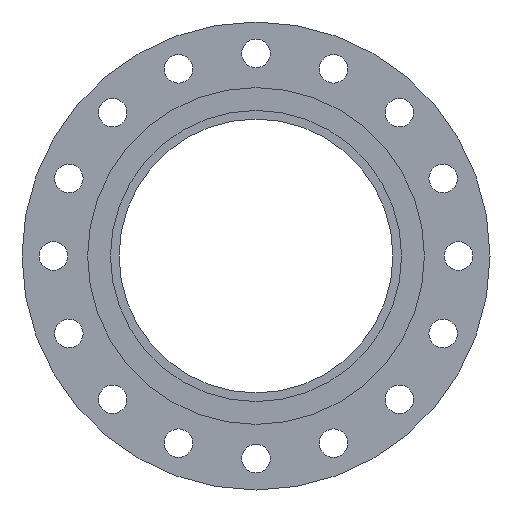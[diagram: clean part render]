
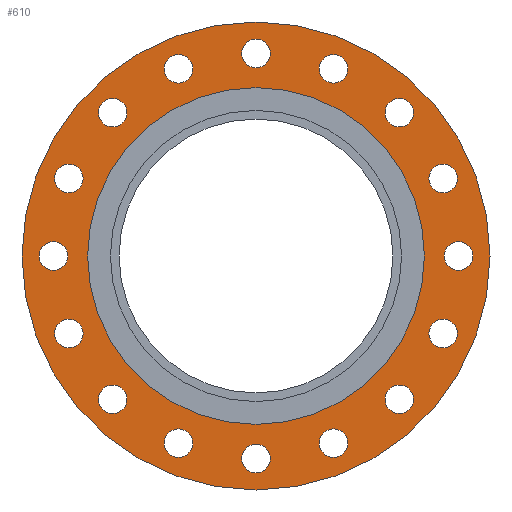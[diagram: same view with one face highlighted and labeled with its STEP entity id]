
A CAD part, left-side view. The second image highlights one B-rep face of the part: STEP entity #610.
In plain terms, the highlighted planar face has unit normal (-1, 0, 0).
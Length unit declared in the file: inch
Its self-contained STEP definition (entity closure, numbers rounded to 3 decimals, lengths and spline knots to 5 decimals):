
#14=FACE_BOUND('',#104,.T.);
#15=FACE_BOUND('',#105,.T.);
#16=FACE_BOUND('',#106,.T.);
#17=FACE_BOUND('',#107,.T.);
#18=FACE_BOUND('',#108,.T.);
#19=FACE_BOUND('',#109,.T.);
#20=FACE_BOUND('',#110,.T.);
#21=FACE_BOUND('',#111,.T.);
#22=FACE_BOUND('',#112,.T.);
#23=FACE_BOUND('',#113,.T.);
#24=FACE_BOUND('',#114,.T.);
#25=FACE_BOUND('',#115,.T.);
#26=FACE_BOUND('',#116,.T.);
#27=FACE_BOUND('',#117,.T.);
#28=FACE_BOUND('',#118,.T.);
#29=FACE_BOUND('',#119,.T.);
#30=FACE_BOUND('',#120,.T.);
#52=PLANE('',#694);
#75=FACE_OUTER_BOUND('',#103,.T.);
#103=EDGE_LOOP('',(#456,#457));
#104=EDGE_LOOP('',(#458));
#105=EDGE_LOOP('',(#459));
#106=EDGE_LOOP('',(#460));
#107=EDGE_LOOP('',(#461));
#108=EDGE_LOOP('',(#462));
#109=EDGE_LOOP('',(#463));
#110=EDGE_LOOP('',(#464));
#111=EDGE_LOOP('',(#465));
#112=EDGE_LOOP('',(#466));
#113=EDGE_LOOP('',(#467));
#114=EDGE_LOOP('',(#468));
#115=EDGE_LOOP('',(#469));
#116=EDGE_LOOP('',(#470));
#117=EDGE_LOOP('',(#471));
#118=EDGE_LOOP('',(#472));
#119=EDGE_LOOP('',(#473));
#120=EDGE_LOOP('',(#474,#475));
#197=CIRCLE('',#643,0.625);
#199=CIRCLE('',#646,0.625);
#201=CIRCLE('',#649,0.625);
#203=CIRCLE('',#652,0.625);
#205=CIRCLE('',#655,0.625);
#207=CIRCLE('',#658,0.625);
#209=CIRCLE('',#661,0.625);
#211=CIRCLE('',#664,0.625);
#213=CIRCLE('',#667,0.625);
#215=CIRCLE('',#670,0.625);
#217=CIRCLE('',#673,0.625);
#219=CIRCLE('',#676,0.625);
#221=CIRCLE('',#679,0.625);
#223=CIRCLE('',#682,0.625);
#225=CIRCLE('',#685,0.625);
#227=CIRCLE('',#688,0.625);
#228=CIRCLE('',#690,10.25);
#229=CIRCLE('',#691,10.25);
#232=CIRCLE('',#695,7.375);
#233=CIRCLE('',#696,7.375);
#253=VERTEX_POINT('',#921);
#255=VERTEX_POINT('',#927);
#257=VERTEX_POINT('',#933);
#259=VERTEX_POINT('',#939);
#261=VERTEX_POINT('',#945);
#263=VERTEX_POINT('',#951);
#265=VERTEX_POINT('',#957);
#267=VERTEX_POINT('',#963);
#269=VERTEX_POINT('',#969);
#271=VERTEX_POINT('',#975);
#273=VERTEX_POINT('',#981);
#275=VERTEX_POINT('',#987);
#277=VERTEX_POINT('',#993);
#279=VERTEX_POINT('',#999);
#281=VERTEX_POINT('',#1005);
#283=VERTEX_POINT('',#1011);
#284=VERTEX_POINT('',#1015);
#285=VERTEX_POINT('',#1016);
#288=VERTEX_POINT('',#1025);
#289=VERTEX_POINT('',#1026);
#310=EDGE_CURVE('',#253,#253,#197,.T.);
#313=EDGE_CURVE('',#255,#255,#199,.T.);
#316=EDGE_CURVE('',#257,#257,#201,.T.);
#319=EDGE_CURVE('',#259,#259,#203,.T.);
#322=EDGE_CURVE('',#261,#261,#205,.T.);
#325=EDGE_CURVE('',#263,#263,#207,.T.);
#328=EDGE_CURVE('',#265,#265,#209,.T.);
#331=EDGE_CURVE('',#267,#267,#211,.T.);
#334=EDGE_CURVE('',#269,#269,#213,.T.);
#337=EDGE_CURVE('',#271,#271,#215,.T.);
#340=EDGE_CURVE('',#273,#273,#217,.T.);
#343=EDGE_CURVE('',#275,#275,#219,.T.);
#346=EDGE_CURVE('',#277,#277,#221,.T.);
#349=EDGE_CURVE('',#279,#279,#223,.T.);
#352=EDGE_CURVE('',#281,#281,#225,.T.);
#355=EDGE_CURVE('',#283,#283,#227,.T.);
#356=EDGE_CURVE('',#284,#285,#228,.T.);
#357=EDGE_CURVE('',#285,#284,#229,.T.);
#361=EDGE_CURVE('',#288,#289,#232,.T.);
#362=EDGE_CURVE('',#289,#288,#233,.T.);
#456=ORIENTED_EDGE('',*,*,#356,.T.);
#457=ORIENTED_EDGE('',*,*,#357,.T.);
#458=ORIENTED_EDGE('',*,*,#310,.T.);
#459=ORIENTED_EDGE('',*,*,#313,.T.);
#460=ORIENTED_EDGE('',*,*,#316,.T.);
#461=ORIENTED_EDGE('',*,*,#319,.T.);
#462=ORIENTED_EDGE('',*,*,#322,.T.);
#463=ORIENTED_EDGE('',*,*,#325,.T.);
#464=ORIENTED_EDGE('',*,*,#328,.T.);
#465=ORIENTED_EDGE('',*,*,#331,.T.);
#466=ORIENTED_EDGE('',*,*,#334,.T.);
#467=ORIENTED_EDGE('',*,*,#337,.T.);
#468=ORIENTED_EDGE('',*,*,#340,.T.);
#469=ORIENTED_EDGE('',*,*,#343,.T.);
#470=ORIENTED_EDGE('',*,*,#346,.T.);
#471=ORIENTED_EDGE('',*,*,#349,.T.);
#472=ORIENTED_EDGE('',*,*,#352,.T.);
#473=ORIENTED_EDGE('',*,*,#355,.T.);
#474=ORIENTED_EDGE('',*,*,#361,.F.);
#475=ORIENTED_EDGE('',*,*,#362,.F.);
#610=ADVANCED_FACE('',(#75,#14,#15,#16,#17,#18,#19,#20,#21,#22,#23,#24,
#25,#26,#27,#28,#29,#30),#52,.T.);
#643=AXIS2_PLACEMENT_3D('',#923,#732,#733);
#646=AXIS2_PLACEMENT_3D('',#929,#739,#740);
#649=AXIS2_PLACEMENT_3D('',#935,#746,#747);
#652=AXIS2_PLACEMENT_3D('',#941,#753,#754);
#655=AXIS2_PLACEMENT_3D('',#947,#760,#761);
#658=AXIS2_PLACEMENT_3D('',#953,#767,#768);
#661=AXIS2_PLACEMENT_3D('',#959,#774,#775);
#664=AXIS2_PLACEMENT_3D('',#965,#781,#782);
#667=AXIS2_PLACEMENT_3D('',#971,#788,#789);
#670=AXIS2_PLACEMENT_3D('',#977,#795,#796);
#673=AXIS2_PLACEMENT_3D('',#983,#802,#803);
#676=AXIS2_PLACEMENT_3D('',#989,#809,#810);
#679=AXIS2_PLACEMENT_3D('',#995,#816,#817);
#682=AXIS2_PLACEMENT_3D('',#1001,#823,#824);
#685=AXIS2_PLACEMENT_3D('',#1007,#830,#831);
#688=AXIS2_PLACEMENT_3D('',#1013,#837,#838);
#690=AXIS2_PLACEMENT_3D('',#1017,#841,#842);
#691=AXIS2_PLACEMENT_3D('',#1018,#843,#844);
#694=AXIS2_PLACEMENT_3D('',#1024,#850,#851);
#695=AXIS2_PLACEMENT_3D('',#1027,#852,#853);
#696=AXIS2_PLACEMENT_3D('',#1028,#854,#855);
#732=DIRECTION('center_axis',(1.,0.,0.));
#733=DIRECTION('ref_axis',(0.,-0.383,0.924));
#739=DIRECTION('center_axis',(1.,0.,0.));
#740=DIRECTION('ref_axis',(0.,-0.707,0.707));
#746=DIRECTION('center_axis',(1.,0.,0.));
#747=DIRECTION('ref_axis',(0.,-0.924,0.383));
#753=DIRECTION('center_axis',(1.,0.,0.));
#754=DIRECTION('ref_axis',(0.,-1.,0.));
#760=DIRECTION('center_axis',(1.,0.,0.));
#761=DIRECTION('ref_axis',(0.,-0.924,-0.383));
#767=DIRECTION('center_axis',(1.,0.,0.));
#768=DIRECTION('ref_axis',(0.,-0.707,-0.707));
#774=DIRECTION('center_axis',(1.,0.,0.));
#775=DIRECTION('ref_axis',(0.,-0.383,-0.924));
#781=DIRECTION('center_axis',(1.,0.,0.));
#782=DIRECTION('ref_axis',(0.,0.,-1.));
#788=DIRECTION('center_axis',(1.,0.,0.));
#789=DIRECTION('ref_axis',(0.,0.383,-0.924));
#795=DIRECTION('center_axis',(1.,0.,0.));
#796=DIRECTION('ref_axis',(0.,0.707,-0.707));
#802=DIRECTION('center_axis',(1.,0.,0.));
#803=DIRECTION('ref_axis',(0.,0.924,-0.383));
#809=DIRECTION('center_axis',(1.,0.,0.));
#810=DIRECTION('ref_axis',(0.,1.,0.));
#816=DIRECTION('center_axis',(1.,0.,0.));
#817=DIRECTION('ref_axis',(0.,0.924,0.383));
#823=DIRECTION('center_axis',(1.,0.,0.));
#824=DIRECTION('ref_axis',(0.,0.707,0.707));
#830=DIRECTION('center_axis',(1.,0.,0.));
#831=DIRECTION('ref_axis',(0.,0.383,0.924));
#837=DIRECTION('center_axis',(1.,0.,0.));
#838=DIRECTION('ref_axis',(0.,0.,1.));
#841=DIRECTION('center_axis',(-1.,0.,0.));
#842=DIRECTION('ref_axis',(0.,0.,1.));
#843=DIRECTION('center_axis',(-1.,0.,0.));
#844=DIRECTION('ref_axis',(0.,0.,1.));
#850=DIRECTION('center_axis',(-1.,0.,0.));
#851=DIRECTION('ref_axis',(0.,0.,1.));
#852=DIRECTION('center_axis',(-1.,0.,0.));
#853=DIRECTION('ref_axis',(0.,0.,1.));
#854=DIRECTION('center_axis',(-1.,0.,0.));
#855=DIRECTION('ref_axis',(0.,0.,1.));
#921=CARTESIAN_POINT('',(-2.,3.63549,-8.77686));
#923=CARTESIAN_POINT('Origin',(-2.,3.39632,-8.19943));
#927=CARTESIAN_POINT('',(-2.,6.71751,-6.71751));
#929=CARTESIAN_POINT('Origin',(-2.,6.27557,-6.27557));
#933=CARTESIAN_POINT('',(-2.,8.77686,-3.63549));
#935=CARTESIAN_POINT('Origin',(-2.,8.19943,-3.39632));
#939=CARTESIAN_POINT('',(-2.,9.5,0.));
#941=CARTESIAN_POINT('Origin',(-2.,8.875,0.));
#945=CARTESIAN_POINT('',(-2.,8.77686,3.63549));
#947=CARTESIAN_POINT('Origin',(-2.,8.19943,3.39632));
#951=CARTESIAN_POINT('',(-2.,6.71751,6.71751));
#953=CARTESIAN_POINT('Origin',(-2.,6.27557,6.27557));
#957=CARTESIAN_POINT('',(-2.,3.63549,8.77686));
#959=CARTESIAN_POINT('Origin',(-2.,3.39632,8.19943));
#963=CARTESIAN_POINT('',(-2.,0.,9.5));
#965=CARTESIAN_POINT('Origin',(-2.,0.,8.875));
#969=CARTESIAN_POINT('',(-2.,-3.63549,8.77686));
#971=CARTESIAN_POINT('Origin',(-2.,-3.39632,8.19943));
#975=CARTESIAN_POINT('',(-2.,-6.71751,6.71751));
#977=CARTESIAN_POINT('Origin',(-2.,-6.27557,6.27557));
#981=CARTESIAN_POINT('',(-2.,-8.77686,3.63549));
#983=CARTESIAN_POINT('Origin',(-2.,-8.19943,3.39632));
#987=CARTESIAN_POINT('',(-2.,-9.5,0.));
#989=CARTESIAN_POINT('Origin',(-2.,-8.875,0.));
#993=CARTESIAN_POINT('',(-2.,-8.77686,-3.63549));
#995=CARTESIAN_POINT('Origin',(-2.,-8.19943,-3.39632));
#999=CARTESIAN_POINT('',(-2.,-6.71751,-6.71751));
#1001=CARTESIAN_POINT('Origin',(-2.,-6.27557,-6.27557));
#1005=CARTESIAN_POINT('',(-2.,-3.63549,-8.77686));
#1007=CARTESIAN_POINT('Origin',(-2.,-3.39632,-8.19943));
#1011=CARTESIAN_POINT('',(-2.,0.,-9.5));
#1013=CARTESIAN_POINT('Origin',(-2.,0.,-8.875));
#1015=CARTESIAN_POINT('',(-2.,0.,10.25));
#1016=CARTESIAN_POINT('',(-2.,0.,-10.25));
#1017=CARTESIAN_POINT('Origin',(-2.,0.,0.));
#1018=CARTESIAN_POINT('Origin',(-2.,0.,0.));
#1024=CARTESIAN_POINT('Origin',(-2.,0.,8.8125));
#1025=CARTESIAN_POINT('',(-2.,0.,7.375));
#1026=CARTESIAN_POINT('',(-2.,0.,-7.375));
#1027=CARTESIAN_POINT('Origin',(-2.,0.,0.));
#1028=CARTESIAN_POINT('Origin',(-2.,0.,0.));
